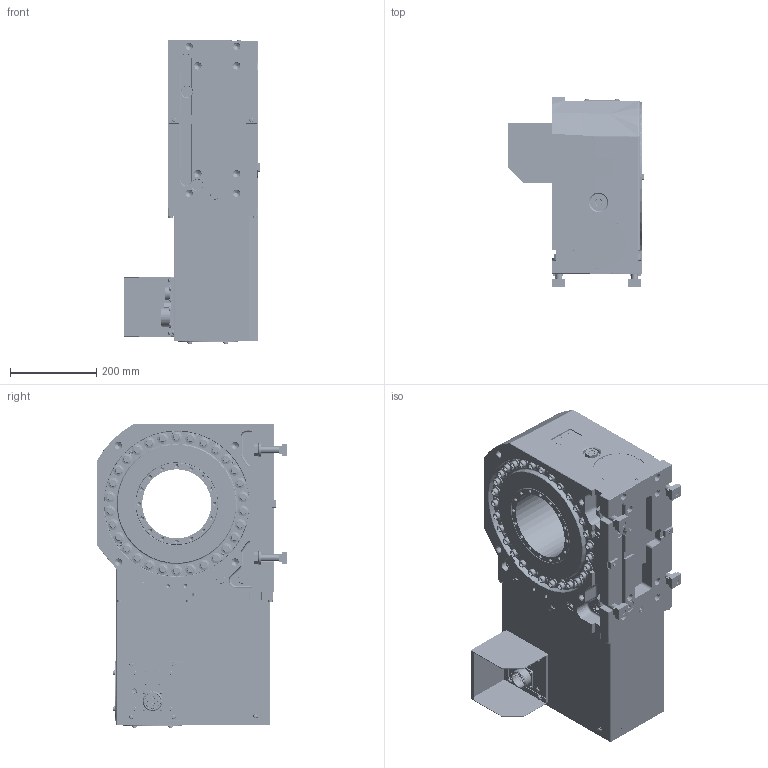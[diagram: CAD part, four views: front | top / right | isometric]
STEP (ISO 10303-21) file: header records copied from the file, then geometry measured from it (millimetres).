
FILE_DESCRIPTION (( 'STEP AP214' ), '1' );
FILE_NAME ('OUTSIDE_VIEW(61E2913930)MK350RHF--.STEP', '2021-10-14T22:03:32', ( '' ), ( '' ), 'SwSTEP 2.0', 'SolidWorks 2020', '' );
FILE_SCHEMA (( 'AUTOMOTIVE_DESIGN' ));
Length unit declared in the file: millimetre
Products named in the file (5): 儌乕僞働乕僗PAD_MK350RHF--A12; OUTSIDE_VIEW(61E2913930)MK350RHF--; BODY_MK350RH00; TABLE_MK350LH00; クランプクミタテ(61E488758)
Assembly tree (7 placements, depth 2):
  OUTSIDE_VIEW(61E2913930)MK350RHF--
    BODY_MK350RH00
    TABLE_MK350LH00
    儌乕僞働乕僗PAD_MK350RHF--A12
    クランプクミタテ(61E488758)  x4
Bounding box: 317 x 441 x 705 mm (x, y, z)
Volume: 44734287.4 mm3; surface area: 2041918.2 mm2
Topology: 7 solids, 120 shells, 5472 faces, 13512 edges, 8479 vertices
Faces by surface type: plane 2888, cylinder 1451, cone 982, torus 99, sphere 39, bspline 13
Entity records: 162658 total; most frequent: CARTESIAN_POINT 32302, DIRECTION 27124, ORIENTED_EDGE 25956, EDGE_CURVE 12978, AXIS2_PLACEMENT_3D 9246, VECTOR 8632, LINE 8632, VERTEX_POINT 8279
